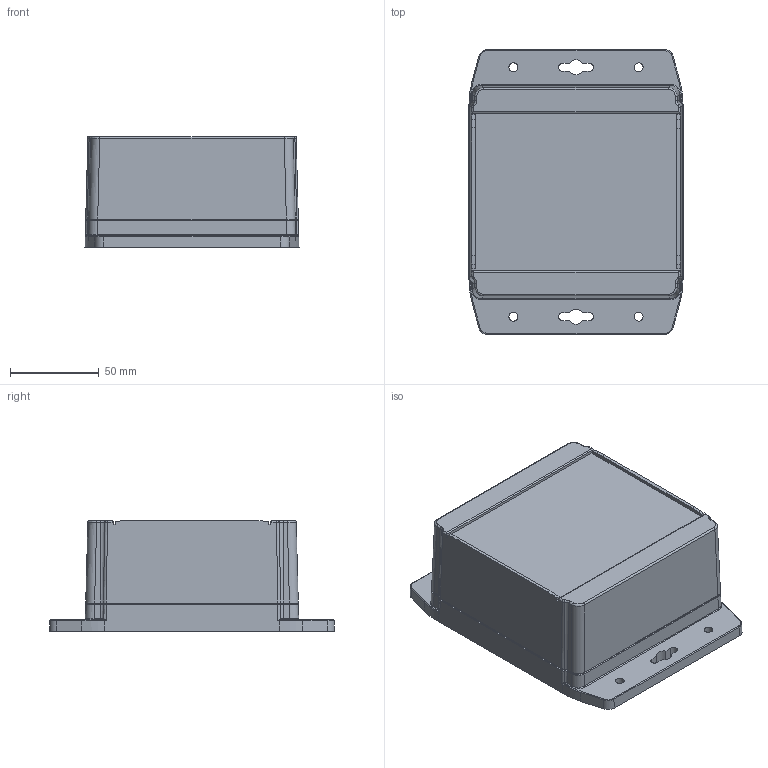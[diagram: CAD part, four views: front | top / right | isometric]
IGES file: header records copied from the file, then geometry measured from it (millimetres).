
Global section: file name: 1555NF42; native system: Autodesk Inventor 2016; preprocessor: unknown; author: avernon; date: 20160215.071256; units: millimetre
Bounding box: 120.79 x 160.79 x 62.5 mm (x, y, z)
Volume: 226508.4 mm3; surface area: 167130.5 mm2
Topology: 11 solids, 11 shells, 1370 faces, 3482 edges, 2193 vertices
Faces by surface type: bspline 1370
